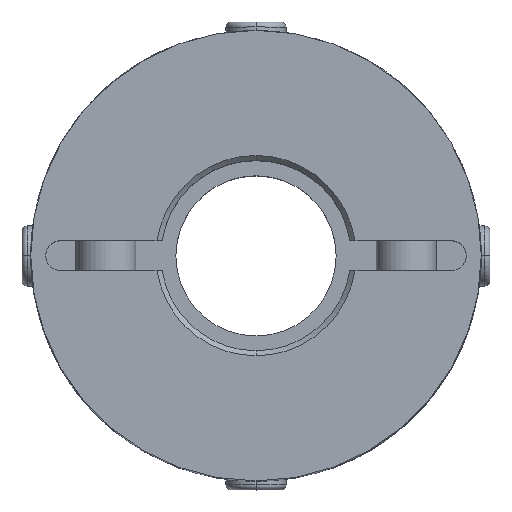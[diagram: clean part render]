
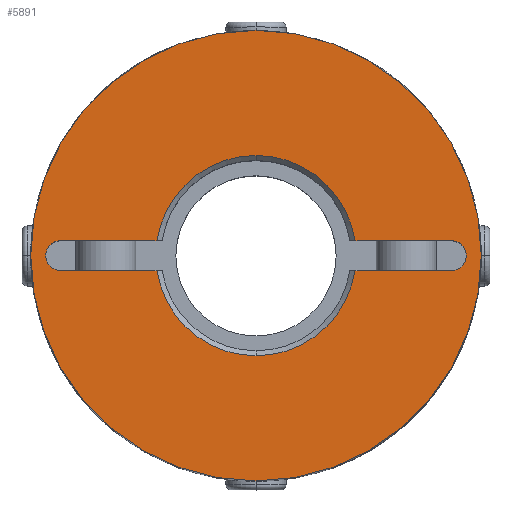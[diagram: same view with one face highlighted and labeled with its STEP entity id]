
A CAD part, top view. The second image highlights one B-rep face of the part: STEP entity #5891.
In plain terms, the highlighted planar face has unit normal (0, 0, 1).
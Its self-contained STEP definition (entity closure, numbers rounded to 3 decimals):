
#2790=CARTESIAN_POINT('',(20.561,1.061,22.5));
#2791=VERTEX_POINT('',#2790);
#2807=CARTESIAN_POINT('',(19.5,-1.5,22.5));
#2808=VERTEX_POINT('',#2807);
#2815=CARTESIAN_POINT('',(19.5,0.,22.5));
#2816=DIRECTION('',(0.0,0.0,1.0));
#2817=DIRECTION('',(0.707,-0.707,0.0));
#2818=AXIS2_PLACEMENT_3D('',#2815,#2816,#2817);
#2819=CIRCLE('',#2818,1.5);
#2820=EDGE_CURVE('',#2808,#2791,#2819,.T.);
#2832=CARTESIAN_POINT('',(-20.561,-1.061,22.5));
#2833=VERTEX_POINT('',#2832);
#2849=CARTESIAN_POINT('',(-19.5,1.5,22.5));
#2850=VERTEX_POINT('',#2849);
#2857=CARTESIAN_POINT('',(-19.5,0.,22.5));
#2858=DIRECTION('',(0.0,0.0,1.0));
#2859=DIRECTION('',(-0.707,0.707,0.0));
#2860=AXIS2_PLACEMENT_3D('',#2857,#2858,#2859);
#2861=CIRCLE('',#2860,1.5);
#2862=EDGE_CURVE('',#2850,#2833,#2861,.T.);
#3358=CARTESIAN_POINT('',(0.,22.5,22.5));
#3359=VERTEX_POINT('',#3358);
#3366=CARTESIAN_POINT('',(0.,-22.5,22.5));
#3367=VERTEX_POINT('',#3366);
#3368=CARTESIAN_POINT('',(0.0,0.0,22.5));
#3369=DIRECTION('',(0.0,0.0,-1.0));
#3370=DIRECTION('',(0.0,-1.0,0.0));
#3371=AXIS2_PLACEMENT_3D('',#3368,#3369,#3370);
#3372=CIRCLE('',#3371,22.5);
#3373=EDGE_CURVE('',#3359,#3367,#3372,.T.);
#3886=CARTESIAN_POINT('',(0.,10.0,22.5));
#3887=VERTEX_POINT('',#3886);
#3895=CARTESIAN_POINT('',(9.887,1.5,22.5));
#3896=VERTEX_POINT('',#3895);
#3910=CARTESIAN_POINT('',(0.0,0.0,22.5));
#3911=DIRECTION('',(0.0,0.0,1.0));
#3912=DIRECTION('',(0.0,1.0,0.0));
#3913=AXIS2_PLACEMENT_3D('',#3910,#3911,#3912);
#3914=CIRCLE('',#3913,10.0);
#3915=EDGE_CURVE('',#3896,#3887,#3914,.T.);
#3925=CARTESIAN_POINT('',(0.,-10.0,22.5));
#3926=VERTEX_POINT('',#3925);
#3942=CARTESIAN_POINT('',(-9.887,-1.5,22.5));
#3943=VERTEX_POINT('',#3942);
#3957=CARTESIAN_POINT('',(0.0,0.0,22.5));
#3958=DIRECTION('',(0.0,0.0,1.0));
#3959=DIRECTION('',(0.0,-1.0,0.0));
#3960=AXIS2_PLACEMENT_3D('',#3957,#3958,#3959);
#3961=CIRCLE('',#3960,10.0);
#3962=EDGE_CURVE('',#3943,#3926,#3961,.T.);
#5629=CARTESIAN_POINT('',(19.5,1.5,22.5));
#5630=VERTEX_POINT('',#5629);
#5637=CARTESIAN_POINT('',(9.887,1.5,22.5));
#5638=DIRECTION('',(1.0,0.0,0.0));
#5639=VECTOR('',#5638,9.613);
#5640=LINE('',#5637,#5639);
#5641=EDGE_CURVE('',#3896,#5630,#5640,.T.);
#5776=CARTESIAN_POINT('',(9.887,-1.5,22.5));
#5777=VERTEX_POINT('',#5776);
#5791=CARTESIAN_POINT('',(19.5,-1.5,22.5));
#5792=DIRECTION('',(-1.0,0.0,0.0));
#5793=VECTOR('',#5792,9.613);
#5794=LINE('',#5791,#5793);
#5795=EDGE_CURVE('',#2808,#5777,#5794,.T.);
#5818=CARTESIAN_POINT('',(0.0,0.0,22.5));
#5819=DIRECTION('',(0.0,0.0,1.0));
#5820=DIRECTION('',(0.0,-1.0,0.0));
#5821=AXIS2_PLACEMENT_3D('',#5818,#5819,#5820);
#5822=CIRCLE('',#5821,10.0);
#5823=EDGE_CURVE('',#3926,#5777,#5822,.T.);
#5830=CARTESIAN_POINT('',(0.,-2.045,22.5));
#5831=DIRECTION('',(0.0,0.0,1.0));
#5832=DIRECTION('',(0.0,-1.0,0.0));
#5833=AXIS2_PLACEMENT_3D('',#5830,#5831,#5832);
#5834=PLANE('',#5833);
#5835=CARTESIAN_POINT('',(0.0,0.0,22.5));
#5836=DIRECTION('',(0.0,0.0,-1.0));
#5837=DIRECTION('',(0.0,-1.0,0.0));
#5838=AXIS2_PLACEMENT_3D('',#5835,#5836,#5837);
#5839=CIRCLE('',#5838,22.5);
#5840=EDGE_CURVE('',#3367,#3359,#5839,.T.);
#5841=ORIENTED_EDGE('',*,*,#5840,.F.);
#5842=ORIENTED_EDGE('',*,*,#3373,.F.);
#5843=EDGE_LOOP('',(#5841,#5842));
#5844=FACE_OUTER_BOUND('',#5843,.T.);
#5845=ORIENTED_EDGE('',*,*,#3962,.F.);
#5846=CARTESIAN_POINT('',(-19.5,-1.5,22.5));
#5847=VERTEX_POINT('',#5846);
#5848=CARTESIAN_POINT('',(-9.887,-1.5,22.5));
#5849=DIRECTION('',(-1.0,0.0,0.0));
#5850=VECTOR('',#5849,9.613);
#5851=LINE('',#5848,#5850);
#5852=EDGE_CURVE('',#3943,#5847,#5851,.T.);
#5853=ORIENTED_EDGE('',*,*,#5852,.T.);
#5854=CARTESIAN_POINT('',(-19.5,0.,22.5));
#5855=DIRECTION('',(0.0,0.0,1.0));
#5856=DIRECTION('',(-0.707,0.707,0.0));
#5857=AXIS2_PLACEMENT_3D('',#5854,#5855,#5856);
#5858=CIRCLE('',#5857,1.5);
#5859=EDGE_CURVE('',#2833,#5847,#5858,.T.);
#5860=ORIENTED_EDGE('',*,*,#5859,.F.);
#5861=ORIENTED_EDGE('',*,*,#2862,.F.);
#5862=CARTESIAN_POINT('',(-9.887,1.5,22.5));
#5863=VERTEX_POINT('',#5862);
#5864=CARTESIAN_POINT('',(-19.5,1.5,22.5));
#5865=DIRECTION('',(1.0,0.0,0.0));
#5866=VECTOR('',#5865,9.613);
#5867=LINE('',#5864,#5866);
#5868=EDGE_CURVE('',#2850,#5863,#5867,.T.);
#5869=ORIENTED_EDGE('',*,*,#5868,.T.);
#5870=CARTESIAN_POINT('',(0.0,0.0,22.5));
#5871=DIRECTION('',(0.0,0.0,1.0));
#5872=DIRECTION('',(0.0,1.0,0.0));
#5873=AXIS2_PLACEMENT_3D('',#5870,#5871,#5872);
#5874=CIRCLE('',#5873,10.0);
#5875=EDGE_CURVE('',#3887,#5863,#5874,.T.);
#5876=ORIENTED_EDGE('',*,*,#5875,.F.);
#5877=ORIENTED_EDGE('',*,*,#3915,.F.);
#5878=ORIENTED_EDGE('',*,*,#5641,.T.);
#5879=CARTESIAN_POINT('',(19.5,0.,22.5));
#5880=DIRECTION('',(0.0,0.0,1.0));
#5881=DIRECTION('',(0.707,-0.707,0.0));
#5882=AXIS2_PLACEMENT_3D('',#5879,#5880,#5881);
#5883=CIRCLE('',#5882,1.5);
#5884=EDGE_CURVE('',#2791,#5630,#5883,.T.);
#5885=ORIENTED_EDGE('',*,*,#5884,.F.);
#5886=ORIENTED_EDGE('',*,*,#2820,.F.);
#5887=ORIENTED_EDGE('',*,*,#5795,.T.);
#5888=ORIENTED_EDGE('',*,*,#5823,.F.);
#5889=EDGE_LOOP('',(#5845,#5853,#5860,#5861,#5869,#5876,#5877,#5878,#5885,#5886,#5887,#5888));
#5890=FACE_BOUND('',#5889,.T.);
#5891=ADVANCED_FACE('',(#5844,#5890),#5834,.T.);
